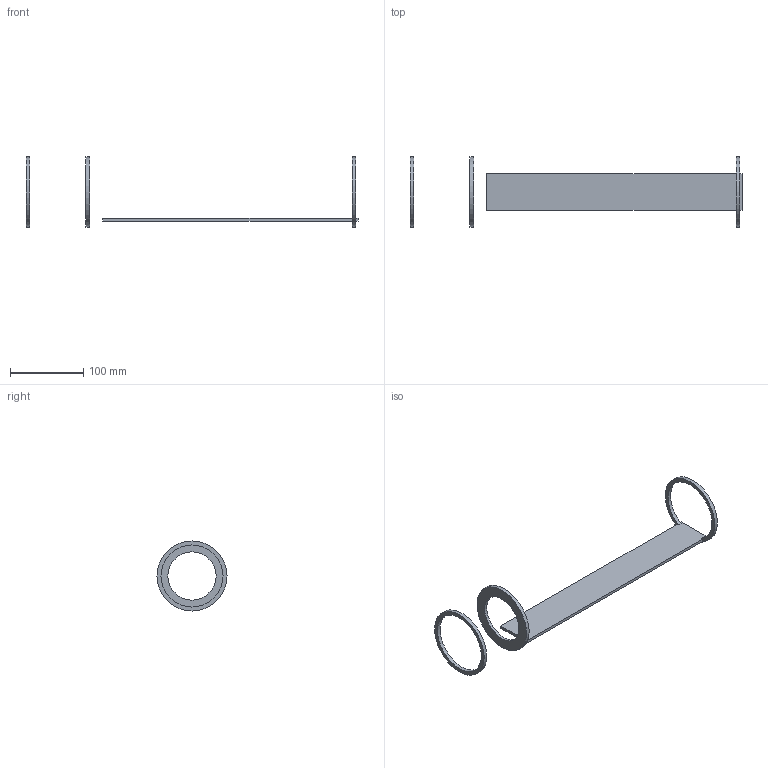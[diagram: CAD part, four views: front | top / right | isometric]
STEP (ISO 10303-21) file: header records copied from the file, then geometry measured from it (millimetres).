
FILE_DESCRIPTION(('Open CASCADE Model'),'2;1');
FILE_NAME('Open CASCADE Shape Model','2026-11-23T20:25:51',('Author'),( 'Open CASCADE'),'Open CASCADE STEP processor 7.9','Open CASCADE 7.9' ,'Unknown');
FILE_SCHEMA(('AUTOMOTIVE_DESIGN { 1 0 10303 214 1 1 1 1 }'));
Length unit declared in the file: millimetre
Products named in the file (4): Open CASCADE STEP translator 7.9 19; Open CASCADE STEP translator 7.9 19.1; Open CASCADE STEP translator 7.9 19.2; Open CASCADE STEP translator 7.9 19.3
Assembly tree (3 placements, depth 2):
  Open CASCADE STEP translator 7.9 19
    Open CASCADE STEP translator 7.9 19.1
    Open CASCADE STEP translator 7.9 19.2
    Open CASCADE STEP translator 7.9 19.3
Bounding box: 454 x 95.8 x 95.8 mm (x, y, z)
Volume: 101855.5 mm3; surface area: 59811.1 mm2
Topology: 3 solids, 3 shells, 23 faces, 54 edges, 36 vertices
Faces by surface type: plane 15, cylinder 8
Full cylindrical faces by diameter (mm): 66 x1, 84.8 x2, 95.8 x3
Entity records: 1410 total; most frequent: CARTESIAN_POINT 257, DIRECTION 200, ORIENTED_EDGE 108, PCURVE 108, DEFINITIONAL_REPRESENTATION 108, LINE 98, VECTOR 98, EDGE_CURVE 54
